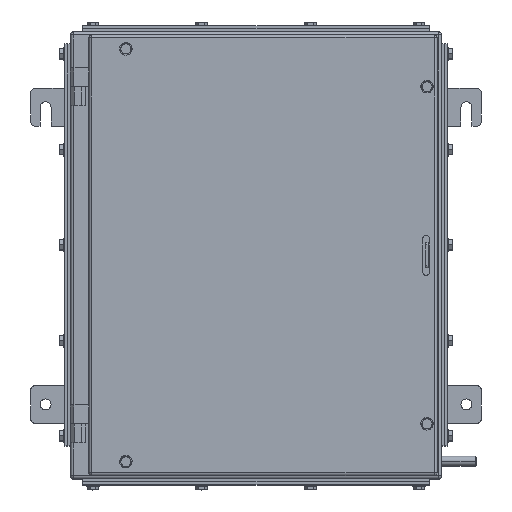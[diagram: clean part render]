
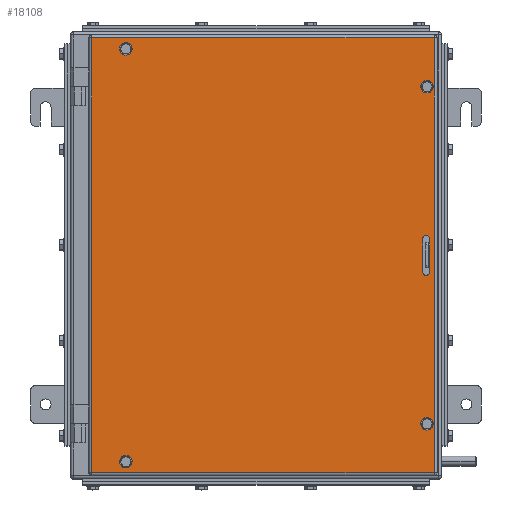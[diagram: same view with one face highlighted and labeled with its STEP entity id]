
A CAD part, top view. The second image highlights one B-rep face of the part: STEP entity #18108.
In plain terms, the highlighted planar face has unit normal (0, 0, 1).
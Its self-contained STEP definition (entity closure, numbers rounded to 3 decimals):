
#24 = ORIENTED_EDGE ( 'NONE', *, *, #24139, .F. ) ;
#467 = CARTESIAN_POINT ( 'NONE',  ( 360., 218., 18. ) ) ;
#504 = CARTESIAN_POINT ( 'NONE',  ( 345.5, 16.5, 18. ) ) ;
#1051 = CARTESIAN_POINT ( 'NONE',  ( 48., -207., 18. ) ) ;
#1273 = VERTEX_POINT ( 'NONE', #504 ) ;
#1318 = CARTESIAN_POINT ( 'NONE',  ( 51.5, 207., 18. ) ) ;
#1742 = FACE_BOUND ( 'NONE', #20007, .T. ) ;
#1752 = CARTESIAN_POINT ( 'NONE',  ( 345.5, 169., 18. ) ) ;
#1847 = EDGE_CURVE ( 'NONE', #11649, #25480, #9573, .T. ) ;
#2237 = CARTESIAN_POINT ( 'NONE',  ( 14., 218., 18. ) ) ;
#2242 = VERTEX_POINT ( 'NONE', #11537 ) ;
#2515 = ORIENTED_EDGE ( 'NONE', *, *, #1847, .T. ) ;
#2893 = CARTESIAN_POINT ( 'NONE',  ( 44.5, 207., 18. ) ) ;
#3059 = ORIENTED_EDGE ( 'NONE', *, *, #24836, .T. ) ;
#3063 = CARTESIAN_POINT ( 'NONE',  ( 349., 169., 18. ) ) ;
#3074 = CIRCLE ( 'NONE', #19897, 3.5 ) ;
#3132 = EDGE_CURVE ( 'NONE', #16534, #26131, #19175, .T. ) ;
#3175 = DIRECTION ( 'NONE',  ( 0., 0., 1. ) ) ;
#3204 = DIRECTION ( 'NONE',  ( 1., 0., 0. ) ) ;
#3265 = VECTOR ( 'NONE', #20786, 1000. ) ;
#3305 = DIRECTION ( 'NONE',  ( -1., 0., 0. ) ) ;
#3423 = AXIS2_PLACEMENT_3D ( 'NONE', #21590, #25324, #25040 ) ;
#3460 = DIRECTION ( 'NONE',  ( 0., 0., 1. ) ) ;
#3736 = EDGE_CURVE ( 'NONE', #7575, #11649, #24741, .T. ) ;
#3786 = CARTESIAN_POINT ( 'NONE',  ( 48., 207., 18. ) ) ;
#3871 = CARTESIAN_POINT ( 'NONE',  ( 349., 16.5, 18. ) ) ;
#3880 = FACE_BOUND ( 'NONE', #14053, .T. ) ;
#4437 = EDGE_CURVE ( 'NONE', #7907, #22247, #17630, .T. ) ;
#4575 = EDGE_LOOP ( 'NONE', ( #20939, #22758 ) ) ;
#5065 = CIRCLE ( 'NONE', #13682, 3.5 ) ;
#5143 = CARTESIAN_POINT ( 'NONE',  ( 357., 221., 18. ) ) ;
#5232 = AXIS2_PLACEMENT_3D ( 'NONE', #23077, #16671, #3305 ) ;
#5462 = CARTESIAN_POINT ( 'NONE',  ( 352.5, 16.5, 18. ) ) ;
#5847 = LINE ( 'NONE', #14505, #23347 ) ;
#5910 = CARTESIAN_POINT ( 'NONE',  ( 349., -16.5, 18. ) ) ;
#6027 = FACE_BOUND ( 'NONE', #7330, .T. ) ;
#6445 = ORIENTED_EDGE ( 'NONE', *, *, #13967, .T. ) ;
#6580 = VECTOR ( 'NONE', #21483, 1000. ) ;
#7095 = AXIS2_PLACEMENT_3D ( 'NONE', #13330, #13894, #3204 ) ;
#7330 = EDGE_LOOP ( 'NONE', ( #21417, #21320, #18469, #21575 ) ) ;
#7575 = VERTEX_POINT ( 'NONE', #13530 ) ;
#7603 = PLANE ( 'NONE',  #5232 ) ;
#7802 = DIRECTION ( 'NONE',  ( 0., 0., 1. ) ) ;
#7907 = VERTEX_POINT ( 'NONE', #23590 ) ;
#7986 = LINE ( 'NONE', #16638, #6580 ) ;
#8021 = FACE_BOUND ( 'NONE', #21513, .T. ) ;
#8130 = VERTEX_POINT ( 'NONE', #17765 ) ;
#8187 = DIRECTION ( 'NONE',  ( 0., 0., 1. ) ) ;
#8851 = LINE ( 'NONE', #11116, #18052 ) ;
#9457 = AXIS2_PLACEMENT_3D ( 'NONE', #5910, #8187, #12168 ) ;
#9573 = LINE ( 'NONE', #467, #26956 ) ;
#10051 = EDGE_LOOP ( 'NONE', ( #6445, #11403, #2515, #3059 ) ) ;
#10267 = VERTEX_POINT ( 'NONE', #15018 ) ;
#10455 = EDGE_CURVE ( 'NONE', #26878, #10267, #10938, .T. ) ;
#10635 = EDGE_CURVE ( 'NONE', #26131, #16534, #5065, .T. ) ;
#10696 = DIRECTION ( 'NONE',  ( 0., 0., 1. ) ) ;
#10739 = VERTEX_POINT ( 'NONE', #1752 ) ;
#10846 = AXIS2_PLACEMENT_3D ( 'NONE', #22940, #3460, #12281 ) ;
#10938 = CIRCLE ( 'NONE', #26823, 3.5 ) ;
#11116 = CARTESIAN_POINT ( 'NONE',  ( 345.5, 16.5, 18. ) ) ;
#11274 = DIRECTION ( 'NONE',  ( 0., 1., 0. ) ) ;
#11403 = ORIENTED_EDGE ( 'NONE', *, *, #3736, .T. ) ;
#11537 = CARTESIAN_POINT ( 'NONE',  ( 345.5, -16.5, 18. ) ) ;
#11649 = VERTEX_POINT ( 'NONE', #13450 ) ;
#11722 = ORIENTED_EDGE ( 'NONE', *, *, #20532, .F. ) ;
#11930 = AXIS2_PLACEMENT_3D ( 'NONE', #3871, #10696, #27488 ) ;
#12168 = DIRECTION ( 'NONE',  ( 1., 0., 0. ) ) ;
#12281 = DIRECTION ( 'NONE',  ( 1., 0., 0. ) ) ;
#13330 = CARTESIAN_POINT ( 'NONE',  ( 48., -207., 18. ) ) ;
#13450 = CARTESIAN_POINT ( 'NONE',  ( 357., 218., 18. ) ) ;
#13530 = CARTESIAN_POINT ( 'NONE',  ( 357., -218., 18. ) ) ;
#13682 = AXIS2_PLACEMENT_3D ( 'NONE', #25082, #16825, #27646 ) ;
#13894 = DIRECTION ( 'NONE',  ( 0., 0., 1. ) ) ;
#13967 = EDGE_CURVE ( 'NONE', #8130, #7575, #19068, .T. ) ;
#14053 = EDGE_LOOP ( 'NONE', ( #26781, #11722 ) ) ;
#14332 = CIRCLE ( 'NONE', #3423, 3.5 ) ;
#14505 = CARTESIAN_POINT ( 'NONE',  ( 14., 221., 18. ) ) ;
#14682 = CARTESIAN_POINT ( 'NONE',  ( 360., -218., 18. ) ) ;
#14692 = FACE_BOUND ( 'NONE', #4575, .T. ) ;
#14779 = EDGE_CURVE ( 'NONE', #26158, #1273, #26902, .T. ) ;
#15018 = CARTESIAN_POINT ( 'NONE',  ( 51.5, -207., 18. ) ) ;
#15275 = DIRECTION ( 'NONE',  ( 0., 0., 1. ) ) ;
#15368 = CIRCLE ( 'NONE', #10846, 3.5 ) ;
#15886 = DIRECTION ( 'NONE',  ( 0., 0., 1. ) ) ;
#16235 = AXIS2_PLACEMENT_3D ( 'NONE', #16729, #7802, #25127 ) ;
#16258 = CIRCLE ( 'NONE', #9457, 3.5 ) ;
#16534 = VERTEX_POINT ( 'NONE', #2893 ) ;
#16638 = CARTESIAN_POINT ( 'NONE',  ( 352.5, 16.5, 18. ) ) ;
#16671 = DIRECTION ( 'NONE',  ( 0., 0., -1. ) ) ;
#16729 = CARTESIAN_POINT ( 'NONE',  ( 349., -169., 18. ) ) ;
#16825 = DIRECTION ( 'NONE',  ( 0., 0., 1. ) ) ;
#17630 = CIRCLE ( 'NONE', #16235, 3.5 ) ;
#17765 = CARTESIAN_POINT ( 'NONE',  ( 14., -218., 18. ) ) ;
#17826 = DIRECTION ( 'NONE',  ( -1., 0., 0. ) ) ;
#18052 = VECTOR ( 'NONE', #19350, 1000. ) ;
#18108 = ADVANCED_FACE ( 'NONE', ( #6027, #14692, #3880, #8021, #1742, #20796 ), #7603, .F. ) ;
#18469 = ORIENTED_EDGE ( 'NONE', *, *, #24807, .F. ) ;
#18656 = ORIENTED_EDGE ( 'NONE', *, *, #27754, .F. ) ;
#19068 = LINE ( 'NONE', #14682, #3265 ) ;
#19175 = CIRCLE ( 'NONE', #22801, 3.5 ) ;
#19350 = DIRECTION ( 'NONE',  ( 0., -1., 0. ) ) ;
#19897 = AXIS2_PLACEMENT_3D ( 'NONE', #3063, #15886, #24544 ) ;
#20007 = EDGE_LOOP ( 'NONE', ( #26448, #23330 ) ) ;
#20389 = DIRECTION ( 'NONE',  ( 1., 0., 0. ) ) ;
#20532 = EDGE_CURVE ( 'NONE', #22247, #7907, #14332, .T. ) ;
#20786 = DIRECTION ( 'NONE',  ( 1., 0., 0. ) ) ;
#20796 = FACE_OUTER_BOUND ( 'NONE', #10051, .T. ) ;
#20806 = EDGE_CURVE ( 'NONE', #10267, #26878, #22075, .T. ) ;
#20939 = ORIENTED_EDGE ( 'NONE', *, *, #20806, .F. ) ;
#21320 = ORIENTED_EDGE ( 'NONE', *, *, #14779, .F. ) ;
#21417 = ORIENTED_EDGE ( 'NONE', *, *, #23611, .F. ) ;
#21483 = DIRECTION ( 'NONE',  ( 0., 1., 0. ) ) ;
#21513 = EDGE_LOOP ( 'NONE', ( #18656, #24 ) ) ;
#21575 = ORIENTED_EDGE ( 'NONE', *, *, #24223, .F. ) ;
#21590 = CARTESIAN_POINT ( 'NONE',  ( 349., -169., 18. ) ) ;
#22075 = CIRCLE ( 'NONE', #7095, 3.5 ) ;
#22247 = VERTEX_POINT ( 'NONE', #26308 ) ;
#22758 = ORIENTED_EDGE ( 'NONE', *, *, #10455, .F. ) ;
#22801 = AXIS2_PLACEMENT_3D ( 'NONE', #3786, #15275, #25552 ) ;
#22940 = CARTESIAN_POINT ( 'NONE',  ( 349., 169., 18. ) ) ;
#23077 = CARTESIAN_POINT ( 'NONE',  ( 360., 221., 18. ) ) ;
#23113 = VERTEX_POINT ( 'NONE', #25516 ) ;
#23183 = DIRECTION ( 'NONE',  ( 0., -1., 0. ) ) ;
#23330 = ORIENTED_EDGE ( 'NONE', *, *, #3132, .F. ) ;
#23347 = VECTOR ( 'NONE', #23183, 1000. ) ;
#23590 = CARTESIAN_POINT ( 'NONE',  ( 352.5, -169., 18. ) ) ;
#23611 = EDGE_CURVE ( 'NONE', #1273, #2242, #8851, .T. ) ;
#24139 = EDGE_CURVE ( 'NONE', #10739, #26452, #3074, .T. ) ;
#24223 = EDGE_CURVE ( 'NONE', #2242, #23113, #16258, .T. ) ;
#24544 = DIRECTION ( 'NONE',  ( 1., 0., 0. ) ) ;
#24741 = LINE ( 'NONE', #5143, #25716 ) ;
#24807 = EDGE_CURVE ( 'NONE', #23113, #26158, #7986, .T. ) ;
#24836 = EDGE_CURVE ( 'NONE', #25480, #8130, #5847, .T. ) ;
#25040 = DIRECTION ( 'NONE',  ( 1., 0., 0. ) ) ;
#25082 = CARTESIAN_POINT ( 'NONE',  ( 48., 207., 18. ) ) ;
#25127 = DIRECTION ( 'NONE',  ( 1., 0., 0. ) ) ;
#25324 = DIRECTION ( 'NONE',  ( 0., 0., 1. ) ) ;
#25480 = VERTEX_POINT ( 'NONE', #2237 ) ;
#25516 = CARTESIAN_POINT ( 'NONE',  ( 352.5, -16.5, 18. ) ) ;
#25552 = DIRECTION ( 'NONE',  ( 1., 0., 0. ) ) ;
#25716 = VECTOR ( 'NONE', #11274, 1000. ) ;
#25965 = CARTESIAN_POINT ( 'NONE',  ( 352.5, 169., 18. ) ) ;
#26131 = VERTEX_POINT ( 'NONE', #1318 ) ;
#26158 = VERTEX_POINT ( 'NONE', #5462 ) ;
#26308 = CARTESIAN_POINT ( 'NONE',  ( 345.5, -169., 18. ) ) ;
#26448 = ORIENTED_EDGE ( 'NONE', *, *, #10635, .F. ) ;
#26452 = VERTEX_POINT ( 'NONE', #25965 ) ;
#26781 = ORIENTED_EDGE ( 'NONE', *, *, #4437, .F. ) ;
#26823 = AXIS2_PLACEMENT_3D ( 'NONE', #1051, #3175, #20389 ) ;
#26878 = VERTEX_POINT ( 'NONE', #27897 ) ;
#26902 = CIRCLE ( 'NONE', #11930, 3.5 ) ;
#26956 = VECTOR ( 'NONE', #17826, 1000. ) ;
#27488 = DIRECTION ( 'NONE',  ( 1., 0., 0. ) ) ;
#27646 = DIRECTION ( 'NONE',  ( 1., 0., 0. ) ) ;
#27754 = EDGE_CURVE ( 'NONE', #26452, #10739, #15368, .T. ) ;
#27897 = CARTESIAN_POINT ( 'NONE',  ( 44.5, -207., 18. ) ) ;
